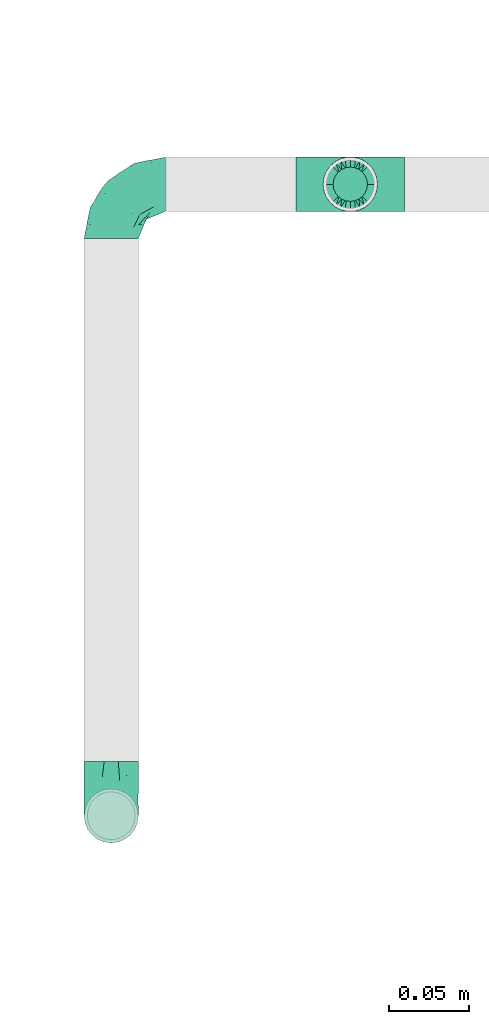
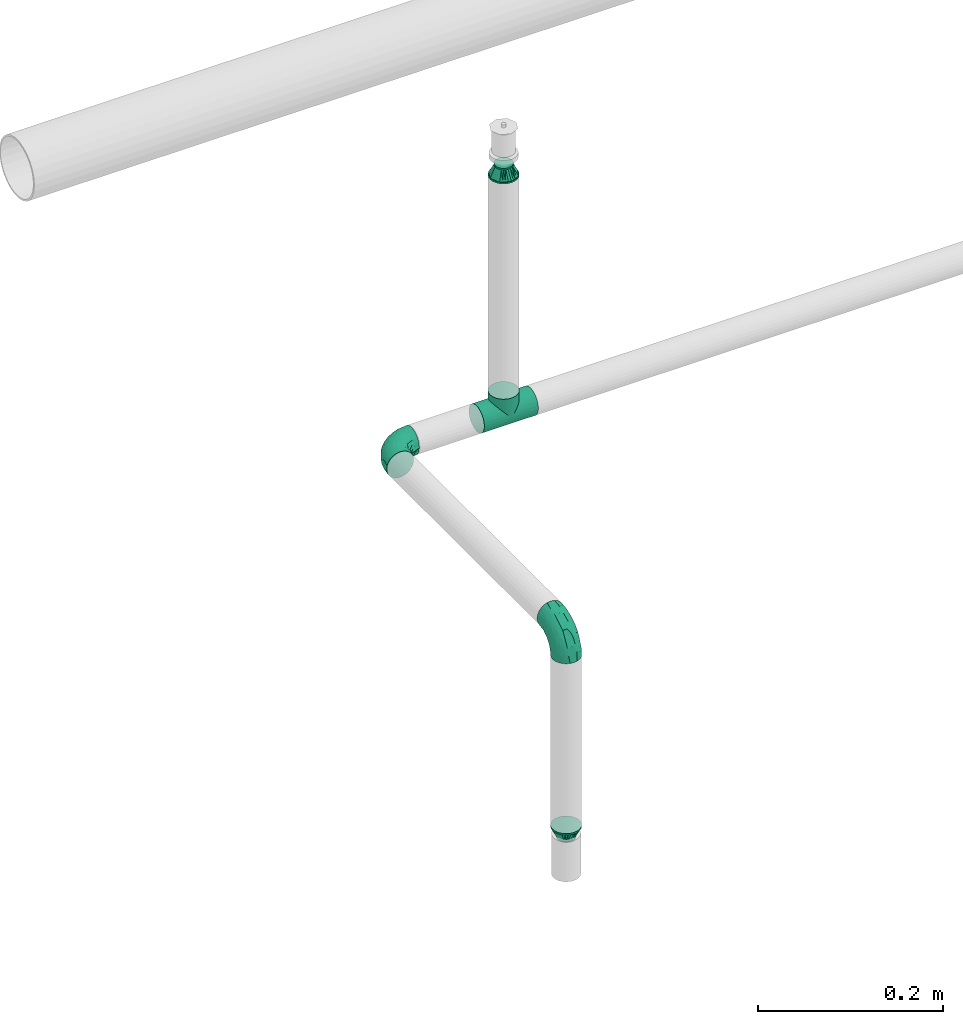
# One storey, part 104 of 157: 5 flow fittings.
"""IFC2X3 building model written with IfcOpenShell, lengths in millimetres."""

from ifc_helpers import new_model, entity, si_unit, converted_unit, derived_unit, direction, frame, origin_with_axes, place, context, subcontext, project, spatial, open_shell, surface_model, source, transform, mapped, type_object, element, save


model = new_model("IFC2X3")

# Units and contexts
model_context = context("Model", 3, precision=0.01, world=frame((0.0, 4.29681676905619e-09, 0.0)), true_north=direction((4.01073788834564e-13, 1.0)))
plan_context = context("Plan", 3, precision=0.01, world=frame((0.0, 4.29681676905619e-09, 0.0)), true_north=direction((4.01073788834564e-13, 1.0)))
body_context = subcontext(model_context, "Body", "Model", "MODEL_VIEW")
ifc_project = project(units=[converted_unit("PLANEANGLEUNIT", "DEGREE", entity("IfcPositiveLengthMeasure", 0.0174532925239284), si_unit("PLANEANGLEUNIT", "RADIAN"), dimensions=[0, 0, 0, 0, 0, 0, 0]), si_unit("AREAUNIT", "SQUARE_METRE"), si_unit("LENGTHUNIT", "METRE", prefix="MILLI"), si_unit("MASSUNIT", "GRAM", prefix="KILO"), si_unit("POWERUNIT", "WATT"), si_unit("PRESSUREUNIT", "PASCAL"), si_unit("FORCEUNIT", "NEWTON", prefix="KILO"), si_unit("ELECTRICCURRENTUNIT", "AMPERE"), si_unit("THERMODYNAMICTEMPERATUREUNIT", "DEGREE_CELSIUS"), si_unit("TIMEUNIT", "SECOND"), si_unit("VOLUMEUNIT", "CUBIC_METRE"), derived_unit("LINEARVELOCITYUNIT", [(si_unit("LENGTHUNIT", "METRE"), 1), (si_unit("TIMEUNIT", "SECOND"), -1)]), derived_unit("VOLUMETRICFLOWRATEUNIT", [(si_unit("VOLUMEUNIT", "CUBIC_METRE"), 1), (si_unit("TIMEUNIT", "SECOND"), -1)]), derived_unit("THERMALTRANSMITTANCEUNIT", [(si_unit("POWERUNIT", "WATT"), 1), (si_unit("THERMODYNAMICTEMPERATUREUNIT", "KELVIN"), -1), (si_unit("AREAUNIT", "SQUARE_METRE"), -1)])], contexts=[model_context, plan_context])

# Site, building, storey
site_placement = place(None, frame((0.0, -4.29681676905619e-09, 0.0), z_axis=(0.0, 0.0, 1.0), x_axis=(1.0, 0.0, 0.0)))
site = spatial("IfcSite", under=ifc_project, at=site_placement, CompositionType="ELEMENT")
building_placement = place(site_placement, frame((0.0, 4.29681676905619e-09, 0.0), z_axis=(0.0, 0.0, 1.0), x_axis=(1.0, 0.0, 0.0)))
building = spatial("IfcBuilding", under=site, at=building_placement, Name="mc-building", CompositionType="ELEMENT")
storey_placement = place(building_placement, frame((0.0, 0.0, 204000.0), z_axis=(0.0, 0.0, 1.0), x_axis=(1.0, 0.0, 0.0)))
storey = spatial("IfcBuildingStorey", under=building, at=storey_placement, Name="Nivå D", CompositionType="ELEMENT", Elevation=204000.0)

# Flow fittings
pipe_fitting_type_1 = type_object("IfcPipeFittingType", Name="magi_pipe_fe_tee_centric_90_NOR", PredefinedType="JUNCTION")
shared_shape_1 = source(origin_with_axes(), body_context, "Body", "SurfaceModel", [
    surface_model("IfcShellBasedSurfaceModel", [(-33.8, 4.37404, -16.32415), (-33.8, 0.0, -16.9), (-33.8, 16.32415, -4.37404), (-33.8, 8.45, -14.63583), (-33.8, 11.9501, -11.9501), (-33.8, 14.63583, -8.45), (-33.8, -16.9, 0.0), (-33.8, -11.9501, -11.9501), (-33.8, -14.63583, -8.45), (-33.8, -8.45, -14.63583), (-33.8, -4.37404, -16.32415), (-33.8, -16.32415, -4.37404), (-33.8, 14.63583, 8.45), (-33.8, 16.32415, 4.37404), (-33.8, -8.45, 14.63583), (-33.8, 8.45, 14.63583), (-33.8, 11.9501, 11.9501), (-33.8, 4.37404, 16.32415), (-33.8, 0.0, 16.9), (-33.8, -11.9501, 11.9501), (-33.8, -14.63583, 8.45), (-33.8, -16.32415, 4.37404), (-33.8, -4.37404, 16.32415), (-33.8, 16.9, 0.0), (33.8, 4.37404, -16.32415), (33.8, -16.9, 0.0), (33.8, 0.0, -16.9), (33.8, 14.63583, -8.45), (33.8, 8.45, -14.63583), (33.8, 16.32415, -4.37404), (33.8, 11.9501, -11.9501), (33.8, -16.32415, 4.37404), (33.8, -8.45, -14.63583), (33.8, -4.37404, -16.32415), (33.8, -11.9501, -11.9501), (33.8, -14.63583, -8.45), (33.8, -16.32415, -4.37404), (33.8, 16.32415, 4.37404), (33.8, 8.45, 14.63583), (33.8, 14.63583, 8.45), (33.8, 11.9501, 11.9501), (33.8, -8.45, 14.63583), (33.8, 4.37404, 16.32415), (33.8, -14.63583, 8.45), (33.8, -11.9501, 11.9501), (33.8, 0.0, 16.9), (33.8, -4.37404, 16.32415), (33.8, 16.9, 0.0), (16.28698, -16.28698, 4.51047), (16.9, -16.9, 0.0), (14.62704, -14.62704, 8.4652), (9.47213, -9.47213, 13.99602), (12.26343, -12.26343, 11.62834), (-16.9, -16.9, 0.0), (-16.28698, -16.28698, 4.51047), (-14.62704, -14.62704, 8.4652), (-12.26343, -12.26343, 11.62834), (-9.47213, -9.47213, 13.99602), (-6.42894, -6.42894, 15.62942), (6.42894, -6.42894, 15.62942), (3.24522, -3.24522, 16.58549), (0.0, 0.0, 16.9), (-3.24522, -3.24522, 16.58549), (3.24522, -3.24522, -16.58549), (0.0, 0.0, -16.9), (-3.24522, -3.24522, -16.58549), (-6.42894, -6.42894, -15.62942), (6.42894, -6.42894, -15.62942), (9.47213, -9.47213, -13.99602), (12.26343, -12.26343, -11.62834), (14.62704, -14.62704, -8.4652), (16.28698, -16.28698, -4.51047), (-9.47213, -9.47213, -13.99602), (-12.26343, -12.26343, -11.62834), (-16.28698, -16.28698, -4.51047), (-14.62704, -14.62704, -8.4652), (4.37404, -25.35, -16.32415), (-16.9, -25.35, 0.0), (0.0, -25.35, -16.9), (14.63583, -25.35, -8.45), (8.45, -25.35, -14.63583), (16.32415, -25.35, -4.37404), (11.9501, -25.35, -11.9501), (-11.9501, -25.35, -11.9501), (-8.45, -25.35, -14.63583), (-4.37404, -25.35, -16.32415), (-14.63583, -25.35, -8.45), (-16.32415, -25.35, -4.37404), (16.9, -25.35, 0.0), (8.45, -25.35, 14.63583), (16.32415, -25.35, 4.37404), (14.63583, -25.35, 8.45), (-8.45, -25.35, 14.63583), (11.9501, -25.35, 11.9501), (4.37404, -25.35, 16.32415), (-16.32415, -25.35, 4.37404), (-11.9501, -25.35, 11.9501), (-14.63583, -25.35, 8.45), (0.0, -25.35, 16.9), (-4.37404, -25.35, 16.32415)], [open_shell([[[0, 1, 2]], [[3, 0, 4]], [[0, 2, 5]], [[4, 0, 5]], [[6, 2, 1]], [[7, 8, 9]], [[1, 10, 9]], [[11, 6, 8]], [[1, 9, 8]], [[1, 8, 6]], [[6, 12, 2]], [[12, 13, 2]], [[14, 12, 6]], [[12, 14, 15]], [[16, 12, 15]], [[17, 15, 18]], [[19, 14, 20]], [[21, 20, 14]], [[22, 18, 14]], [[14, 6, 21]], [[14, 18, 15]], [[23, 2, 13]], [[24, 25, 26]], [[27, 24, 28]], [[27, 29, 24]], [[27, 28, 30]], [[31, 25, 24]], [[26, 32, 33]], [[26, 34, 32]], [[35, 25, 36]], [[35, 34, 26]], [[25, 35, 26]], [[24, 29, 31]], [[29, 37, 38]], [[38, 37, 39]], [[38, 31, 29]], [[38, 39, 40]], [[41, 38, 42]], [[43, 41, 44]], [[41, 43, 31]], [[41, 45, 46]], [[41, 31, 38]], [[42, 45, 41]], [[29, 47, 37]], [[31, 43, 48]], [[25, 31, 49]], [[49, 31, 48]], [[43, 50, 48]], [[44, 41, 51]], [[50, 43, 52]], [[51, 52, 44]], [[52, 43, 44]], [[53, 54, 21]], [[53, 21, 6]], [[21, 54, 20]], [[54, 55, 20]], [[56, 57, 19]], [[19, 20, 56]], [[19, 57, 14]], [[56, 20, 55]], [[14, 57, 58]], [[51, 41, 59]], [[60, 45, 61]], [[59, 46, 60]], [[46, 59, 41]], [[60, 46, 45]], [[61, 45, 42]], [[39, 37, 13]], [[16, 38, 40]], [[12, 40, 39]], [[42, 38, 15]], [[23, 37, 47]], [[62, 61, 18]], [[62, 22, 58]], [[22, 62, 18]], [[58, 22, 14]], [[61, 17, 18]], [[42, 17, 61]], [[15, 17, 42]], [[15, 38, 16]], [[12, 16, 40]], [[13, 12, 39]], [[37, 23, 13]], [[5, 27, 30]], [[23, 47, 29]], [[30, 28, 3]], [[27, 2, 29]], [[26, 33, 63]], [[26, 64, 24]], [[64, 26, 63]], [[28, 24, 0]], [[64, 0, 24]], [[4, 30, 3]], [[2, 27, 5]], [[5, 30, 4]], [[2, 23, 29]], [[65, 66, 10]], [[1, 0, 64]], [[1, 65, 10]], [[66, 9, 10]], [[0, 3, 28]], [[1, 64, 65]], [[63, 33, 67]], [[32, 34, 68]], [[69, 68, 34]], [[35, 70, 69]], [[69, 34, 35]], [[32, 68, 67]], [[36, 25, 49]], [[36, 71, 35]], [[71, 36, 49]], [[35, 71, 70]], [[72, 9, 66]], [[72, 7, 9]], [[7, 72, 73]], [[7, 73, 8]], [[74, 53, 11]], [[75, 74, 8]], [[74, 11, 8]], [[11, 53, 6]], [[75, 8, 73]], [[32, 67, 33]], [[76, 77, 78]], [[79, 76, 80]], [[79, 81, 76]], [[79, 80, 82]], [[77, 76, 81]], [[78, 83, 84]], [[84, 85, 78]], [[86, 77, 87]], [[83, 78, 86]], [[77, 86, 78]], [[81, 88, 77]], [[89, 88, 90]], [[89, 90, 91]], [[92, 77, 89]], [[89, 91, 93]], [[92, 89, 94]], [[95, 96, 97]], [[96, 95, 92]], [[92, 98, 99]], [[95, 77, 92]], [[94, 98, 92]], [[89, 77, 88]], [[77, 95, 53]], [[54, 53, 95]], [[97, 96, 56]], [[96, 92, 57]], [[95, 97, 54]], [[58, 92, 99]], [[55, 54, 97]], [[56, 55, 97]], [[58, 57, 92]], [[98, 61, 62]], [[58, 99, 62]], [[56, 96, 57]], [[62, 99, 98]], [[94, 60, 98]], [[89, 59, 94]], [[91, 90, 48]], [[52, 93, 91]], [[93, 51, 89]], [[49, 90, 88]], [[59, 60, 94]], [[51, 59, 89]], [[49, 48, 90]], [[50, 52, 91]], [[48, 50, 91]], [[51, 93, 52]], [[98, 60, 61]], [[88, 81, 49]], [[71, 49, 81]], [[79, 82, 69]], [[82, 80, 68]], [[81, 79, 71]], [[67, 80, 76]], [[70, 71, 79]], [[69, 70, 79]], [[67, 68, 80]], [[78, 64, 63]], [[67, 76, 63]], [[69, 82, 68]], [[63, 76, 78]], [[85, 65, 78]], [[84, 66, 85]], [[86, 87, 74]], [[86, 73, 83]], [[72, 84, 83]], [[53, 87, 77]], [[66, 65, 85]], [[72, 66, 84]], [[53, 74, 87]], [[75, 73, 86]], [[74, 75, 86]], [[72, 83, 73]], [[78, 65, 64]]])]),
])
flow_fitting_placement = place(storey_placement, frame((530040.35, 413380.00018, 2690.0), z_axis=(0.0, -1.0, 0.0), x_axis=(-1.0, 0.0, 0.0)))
element("IfcFlowFitting", 1, at=flow_fitting_placement, inside=storey, type_object=pipe_fitting_type_1, Name="magi_pipe_fe_tee_centric_90_NOR", context=body_context, shape_type="MappedRepresentation", body=[
    mapped(shared_shape_1, transform((0.0, 0.0, 0.0), scale=1.0)),
])
pipe_fitting_type_2 = type_object("IfcPipeFittingType", Name="magi_pipe_fe_elbow_short_001", PredefinedType="BEND")
shared_shape_2 = source(origin_with_axes(), body_context, "Body", "SurfaceModel", [
    surface_model("IfcShellBasedSurfaceModel", [(-33.8, 8.45, -14.63583), (-33.8, 4.37404, -16.32415), (-33.8, 11.9501, -11.9501), (-33.8, -11.9501, -11.9501), (-33.8, -14.63583, -8.45), (-33.8, -8.45, -14.63583), (-33.8, 0.0, -16.9), (-33.8, -4.37404, -16.32415), (-33.8, -4.37404, 16.32415), (-33.8, 0.0, 16.9), (-33.8, -8.45, 14.63583), (-33.8, 16.32415, -4.37404), (-33.8, 14.63583, -8.45), (-33.8, -16.32415, -4.37404), (-33.8, -16.9, 0.0), (-33.8, -16.32415, 4.37404), (-33.8, 11.9501, 11.9501), (-33.8, 14.63583, 8.45), (-33.8, 16.32415, 4.37404), (-33.8, 4.37404, 16.32415), (-33.8, 8.45, 14.63583), (-33.8, -14.63583, 8.45), (-33.8, -11.9501, 11.9501), (-33.8, 16.9, 0.0), (-11.9501, 33.8, -11.9501), (0.0, 33.8, -16.9), (-4.37404, 33.8, -16.32415), (-8.45, 33.8, -14.63583), (-14.63583, 33.8, -8.45), (-16.32415, 33.8, -4.37404), (14.63583, 33.8, -8.45), (8.45, 33.8, 14.63583), (16.32415, 33.8, -4.37404), (8.45, 33.8, -14.63583), (11.9501, 33.8, -11.9501), (4.37404, 33.8, -16.32415), (16.32415, 33.8, 4.37404), (16.9, 33.8, 0.0), (-11.9501, 33.8, 11.9501), (-16.32415, 33.8, 4.37404), (-14.63583, 33.8, 8.45), (-8.45, 33.8, 14.63583), (-4.37404, 33.8, 16.32415), (11.9501, 33.8, 11.9501), (14.63583, 33.8, 8.45), (0.0, 33.8, 16.9), (4.37404, 33.8, 16.32415), (-16.9, 33.8, 0.0), (-24.79389, -13.12945, 9.48721), (-22.19287, -9.75018, 12.59315), (-24.09897, -14.97035, 0.0), (-14.93934, -10.76256, 8.5297), (-22.46095, -14.75051, 5.27077), (14.75051, 22.46094, 5.27077), (11.9251, 13.23888, 4.33236), (13.04069, 14.39795, 0.0), (7.71387, 13.68847, 11.55891), (9.75018, 22.19287, 12.59315), (4.10169, 13.0571, 14.04018), (-24.84007, -6.39063, 15.2048), (-25.81779, -2.23879, 16.61097), (-23.66549, 2.59054, 16.87119), (-26.50418, 14.06512, 11.08152), (-24.21253, 17.66365, 7.72657), (-29.58514, 15.86957, 7.00283), (-6.17382, -7.5455, 0.0), (-13.23888, -11.9251, 4.33236), (-14.39795, -13.04069, 0.0), (-17.81434, 18.87373, 11.97104), (-6.30846, 29.15138, 15.82987), (-2.31622, 25.28002, 16.85849), (-29.23923, 10.23435, 13.77053), (-1.45439, -2.85688, 7.61475), (-0.28326, 0.34872, 10.09509), (-5.74484, -4.04709, 10.4122), (-4.41137, 11.31918, 16.59407), (-8.39727, 3.10034, 15.7812), (-1.72649, 9.1306, 15.53089), (-17.39909, 24.75344, 7.64977), (-26.19233, 20.0512, 0.0), (-28.14518, 17.29657, 4.25857), (-26.05147, 6.6281, 15.96447), (-5.87354, 16.61944, 16.86968), (-12.51807, 12.51807, 16.48937), (-10.06312, 7.38516, 16.81295), (-3.01882, 3.01882, 13.81718), (-13.0571, -4.10169, 14.04018), (-16.82553, -0.15166, 16.38038), (10.76256, 14.93934, 8.5297), (13.12945, 24.79389, 9.48721), (6.39063, 24.84007, 15.2048), (2.23879, 25.81779, 16.61097), (-13.68847, -7.71387, 11.55891), (14.97035, 24.09897, 0.0), (-7.30894, 22.89991, 16.09489), (-10.67958, 26.17414, 14.008), (-12.78295, 18.26924, 15.06066), (-13.88562, 22.45231, 12.93244), (-18.04944, 15.16501, 14.04434), (-23.11658, 20.08178, 4.02986), (-21.84989, 21.84989, 0.0), (-18.55817, 25.48277, 3.93065), (-13.95142, 26.94732, 11.03289), (-18.57098, 7.23906, 16.59756), (-16.58335, 4.14122, 16.89279), (-17.96666, 11.46709, 15.63151), (-9.84453, 17.54304, 16.18938), (0.15166, 16.82553, 16.38038), (-23.27207, 11.47201, 14.23154), (3.84842, 5.86994, 10.70473), (-8.0212, -7.54413, 7.93275), (1.00345, -2.19508, 4.57414), (5.13203, 3.01004, 5.90201), (5.24161, 1.7543, 2.53265), (8.70457, 7.04947, 3.99182), (-20.0512, 26.19233, 0.0), (8.4852, 8.76699, 7.09296), (-4.55488, -6.72064, 4.90681), (2.05031, -2.05031, 0.0), (7.5455, 6.17382, 0.0), (-26.75399, 2.1369, -16.845), (-14.61995, 24.73803, -11.27736), (-28.45274, -13.45335, -9.81895), (-26.00469, 6.63555, -15.96645), (-23.06726, 20.04573, -4.26202), (-13.80647, -4.26506, -14.17873), (-14.67501, -0.21081, -16.07388), (-6.7902, -0.2828, -13.8478), (-24.53586, 11.08096, -14.13417), (-26.72048, 14.00837, -11.05776), (10.0967, 24.44989, -12.75976), (5.83237, 21.40218, -15.03047), (6.66249, 28.54238, -15.38093), (-20.38182, 15.48705, -12.74596), (12.53268, 21.23441, -9.15363), (12.54494, 15.67504, -5.54878), (9.7522, 12.89279, -8.66343), (-15.65186, 19.64213, -13.01327), (-12.03528, 20.66498, -14.67665), (-15.61907, 15.61906, -14.83879), (-25.56551, -15.26206, 0.0), (-24.65452, -15.12934, -5.50955), (13.45335, 28.45274, -9.81895), (15.12934, 24.65452, -5.50955), (-7.35442, -8.31014, -5.65563), (-15.67504, -12.54494, -5.54878), (-24.44989, -10.0967, -12.75976), (0.16522, 0.41303, -9.71728), (-5.70658, -5.33066, -8.89288), (-5.13869, -2.37198, -11.53565), (-21.23441, -12.53268, -9.15363), (0.71146, 7.93863, -14.09382), (0.21081, 14.67501, -16.07388), (3.49291, 14.42772, -14.76381), (-24.89911, -2.13088, -16.591), (-28.54238, -6.66249, -15.38093), (-18.44386, -7.71663, -13.26957), (2.13088, 24.89911, -16.591), (-28.64342, 17.44413, -2.89318), (1.70017, -1.28722, -5.09504), (-16.57067, 26.81947, -7.36596), (-17.69055, 27.4263, -3.76405), (-12.89279, -9.7522, -8.66343), (-5.96611, 5.96611, -15.95814), (-20.53709, 20.09345, -8.28985), (-2.1369, 26.75399, -16.845), (-6.89872, 24.58781, -16.02578), (-10.60739, 26.53157, -13.98044), (-21.40218, -5.83237, -15.03047), (2.93192, 5.89627, -11.55917), (6.89393, 12.61842, -11.82233), (5.58056, 5.95325, -8.79455), (-3.99512, 18.61798, -16.89635), (8.31014, 7.35442, -5.65563), (-9.1383, 9.86148, -16.89041), (-9.99983, 16.02119, -16.39699), (-16.68576, 9.78031, -16.34199), (-27.01915, 16.61158, -7.12979), (15.26206, 25.56551, 0.0), (-18.61798, 3.99512, -16.89635), (-19.37495, 27.82495, 0.0), (-12.61842, -6.89393, -11.82233), (-18.84705, 19.14018, -10.96545)], [open_shell([[[0, 1, 2]], [[3, 4, 5]], [[6, 7, 5]], [[8, 9, 10]], [[1, 6, 2]], [[11, 12, 2]], [[4, 2, 6]], [[2, 13, 10]], [[5, 4, 6]], [[2, 4, 13]], [[14, 15, 13]], [[11, 2, 16]], [[11, 17, 18]], [[11, 16, 17]], [[19, 20, 16]], [[16, 2, 10]], [[19, 16, 10]], [[21, 22, 15]], [[22, 13, 15]], [[22, 10, 13]], [[10, 9, 19]], [[11, 18, 23]], [[24, 25, 26]], [[24, 26, 27]], [[24, 28, 29]], [[25, 24, 30]], [[31, 32, 24]], [[33, 30, 34]], [[33, 35, 25]], [[25, 30, 33]], [[32, 30, 24]], [[32, 36, 37]], [[38, 24, 29]], [[39, 40, 29]], [[40, 38, 29]], [[38, 41, 42]], [[38, 31, 24]], [[31, 38, 42]], [[36, 43, 44]], [[36, 32, 43]], [[31, 45, 46]], [[32, 31, 43]], [[42, 45, 31]], [[39, 29, 47]], [[22, 48, 49]], [[15, 14, 50]], [[51, 48, 52]], [[53, 54, 55]], [[48, 22, 21]], [[15, 52, 21]], [[56, 57, 58]], [[49, 10, 22]], [[49, 59, 10]], [[9, 60, 61]], [[62, 63, 64]], [[65, 66, 67]], [[57, 43, 31]], [[62, 68, 63]], [[42, 69, 70]], [[20, 71, 16]], [[8, 60, 9]], [[72, 73, 74]], [[75, 76, 77]], [[16, 62, 17]], [[40, 39, 78]], [[79, 23, 80]], [[64, 18, 17]], [[9, 61, 19]], [[19, 81, 20]], [[82, 83, 84]], [[74, 85, 86]], [[59, 86, 87]], [[88, 89, 57]], [[90, 31, 46]], [[44, 53, 36]], [[46, 45, 91]], [[54, 53, 88]], [[44, 89, 53]], [[92, 86, 49]], [[89, 44, 43]], [[10, 59, 8]], [[53, 55, 93]], [[93, 36, 53]], [[66, 52, 67]], [[94, 82, 70]], [[95, 96, 94]], [[97, 98, 96]], [[79, 99, 100]], [[41, 38, 95]], [[101, 100, 99]], [[68, 78, 63]], [[42, 41, 69]], [[23, 18, 80]], [[95, 94, 69]], [[78, 101, 99]], [[38, 102, 95]], [[70, 45, 42]], [[97, 95, 102]], [[15, 50, 52]], [[90, 57, 31]], [[57, 90, 58]], [[81, 19, 61]], [[103, 104, 84]], [[105, 81, 103]], [[38, 40, 102]], [[106, 96, 83]], [[94, 106, 82]], [[91, 70, 107]], [[71, 62, 16]], [[62, 108, 98]], [[86, 59, 49]], [[67, 52, 50]], [[60, 59, 87]], [[92, 49, 51]], [[86, 85, 76]], [[91, 90, 46]], [[37, 36, 93]], [[107, 77, 58]], [[107, 58, 90]], [[58, 85, 109]], [[110, 74, 92]], [[72, 74, 110]], [[66, 51, 52]], [[72, 111, 112]], [[113, 114, 112]], [[56, 88, 57]], [[52, 48, 21]], [[49, 48, 51]], [[57, 89, 43]], [[53, 89, 88]], [[103, 81, 61]], [[71, 81, 108]], [[18, 64, 80]], [[63, 78, 99]], [[47, 115, 101]], [[101, 115, 100]], [[40, 78, 102]], [[68, 102, 78]], [[97, 96, 95]], [[105, 98, 108]], [[103, 84, 83]], [[107, 70, 82]], [[76, 84, 87]], [[82, 84, 75]], [[70, 91, 45]], [[90, 91, 107]], [[59, 60, 8]], [[61, 60, 87]], [[73, 85, 74]], [[109, 112, 116]], [[103, 61, 104]], [[105, 103, 83]], [[96, 105, 83]], [[81, 105, 108]], [[96, 98, 105]], [[62, 98, 68]], [[61, 87, 104]], [[87, 84, 104]], [[86, 76, 87]], [[77, 76, 85]], [[58, 77, 85]], [[75, 77, 107]], [[82, 75, 107]], [[76, 75, 84]], [[81, 71, 20]], [[62, 71, 108]], [[95, 69, 41]], [[70, 69, 94]], [[62, 64, 17]], [[80, 63, 99]], [[63, 80, 64]], [[80, 99, 79]], [[66, 65, 117]], [[110, 66, 117]], [[112, 114, 116]], [[118, 117, 65]], [[110, 92, 51]], [[112, 111, 113]], [[119, 55, 54]], [[74, 86, 92]], [[58, 109, 56]], [[116, 56, 109]], [[66, 110, 51]], [[72, 110, 117]], [[111, 72, 117]], [[73, 112, 109]], [[117, 118, 111]], [[113, 111, 118]], [[118, 119, 113]], [[114, 119, 54]], [[119, 114, 113]], [[116, 54, 88]], [[54, 116, 114]], [[116, 88, 56]], [[112, 73, 72]], [[85, 73, 109]], [[78, 39, 101]], [[47, 101, 39]], [[102, 68, 97]], [[97, 68, 98]], [[82, 106, 83]], [[94, 96, 106]], [[1, 120, 6]], [[28, 24, 121]], [[3, 122, 4]], [[0, 123, 1]], [[100, 124, 79]], [[125, 126, 127]], [[128, 2, 129]], [[130, 131, 132]], [[128, 129, 133]], [[134, 135, 136]], [[137, 138, 139]], [[128, 0, 2]], [[67, 140, 141]], [[134, 142, 143]], [[141, 13, 4]], [[144, 65, 145]], [[146, 3, 5]], [[147, 148, 149]], [[145, 141, 150]], [[151, 152, 153]], [[154, 7, 6]], [[5, 155, 146]], [[150, 146, 156]], [[155, 5, 7]], [[143, 135, 134]], [[35, 157, 25]], [[23, 79, 158]], [[148, 159, 144]], [[160, 161, 29]], [[145, 162, 144]], [[163, 152, 151]], [[29, 28, 160]], [[121, 164, 160]], [[33, 34, 130]], [[25, 165, 26]], [[26, 165, 166]], [[142, 34, 30]], [[24, 27, 167]], [[124, 161, 164]], [[157, 35, 132]], [[155, 154, 168]], [[123, 0, 128]], [[169, 170, 171]], [[172, 157, 152]], [[26, 166, 27]], [[132, 35, 33]], [[142, 130, 34]], [[168, 154, 126]], [[136, 135, 173]], [[133, 137, 139]], [[2, 12, 129]], [[170, 131, 130]], [[30, 32, 143]], [[172, 174, 175]], [[176, 123, 128]], [[158, 177, 11]], [[135, 55, 119]], [[167, 27, 166]], [[175, 166, 172]], [[137, 167, 138]], [[122, 141, 4]], [[140, 14, 13]], [[32, 37, 178]], [[170, 130, 134]], [[152, 157, 131]], [[165, 157, 172]], [[153, 170, 151]], [[152, 163, 174]], [[168, 125, 156]], [[122, 146, 150]], [[120, 154, 6]], [[179, 174, 126]], [[179, 126, 154]], [[126, 163, 127]], [[162, 145, 150]], [[140, 13, 141]], [[32, 178, 143]], [[55, 143, 178]], [[177, 129, 12]], [[128, 133, 139]], [[176, 128, 139]], [[120, 123, 179]], [[121, 160, 28]], [[161, 100, 180]], [[166, 175, 138]], [[121, 24, 167]], [[161, 47, 29]], [[79, 124, 158]], [[124, 164, 177]], [[161, 124, 100]], [[136, 171, 170]], [[127, 163, 151]], [[147, 171, 159]], [[148, 144, 162]], [[127, 151, 169]], [[127, 181, 125]], [[129, 177, 164]], [[12, 11, 177]], [[159, 65, 144]], [[67, 141, 145]], [[143, 55, 135]], [[135, 119, 173]], [[123, 120, 1]], [[154, 120, 179]], [[157, 165, 25]], [[166, 165, 172]], [[172, 152, 174]], [[176, 139, 175]], [[126, 174, 163]], [[176, 174, 179]], [[174, 176, 175]], [[123, 176, 179]], [[150, 181, 162]], [[127, 149, 181]], [[181, 148, 162]], [[159, 148, 147]], [[171, 136, 173]], [[170, 134, 136]], [[159, 171, 173]], [[171, 147, 169]], [[169, 147, 149]], [[151, 170, 169]], [[164, 182, 129]], [[182, 121, 137]], [[181, 149, 148]], [[169, 149, 127]], [[182, 137, 133]], [[167, 137, 121]], [[166, 138, 167]], [[175, 139, 138]], [[129, 182, 133]], [[121, 182, 164]], [[161, 160, 164]], [[47, 161, 180]], [[177, 158, 124]], [[23, 158, 11]], [[130, 132, 33]], [[157, 132, 131]], [[143, 142, 30]], [[130, 142, 134]], [[154, 155, 7]], [[146, 155, 168]], [[146, 122, 3]], [[141, 122, 150]], [[152, 131, 153]], [[159, 119, 118]], [[67, 145, 65]], [[170, 153, 131]], [[119, 159, 173]], [[159, 118, 65]], [[156, 125, 181]], [[126, 125, 168]], [[150, 156, 181]], [[168, 156, 146]]])]),
])
for number, where, z_axis, x_axis, name in (
    (2, (529891.33339, 413380.00018, 2690.0), (0.0, 0.0, 1.0), (-1.0, 0.0, 0.0), "magi_pipe_fe_elbow_short_001"),
    (3, (529891.33339, 412986.41959, 2690.0), (1.0, 0.0, 0.0), (0.0, -1.0, 0.0), "magi_pipe_fe_elbow_short_001"),
):
    element("IfcFlowFitting", number, at=place(storey_placement, frame(where, z_axis=z_axis, x_axis=x_axis)), inside=storey, type_object=pipe_fitting_type_2, Name=name, context=body_context, shape_type="MappedRepresentation", body=[
        mapped(shared_shape_2, transform((0.0, 0.0, 0.0), scale=1.0)),
    ])
pipe_fitting_type_3 = type_object("IfcPipeFittingType", Name="magi_pipe_fe_reducer_centric_short_NOR", PredefinedType="TRANSITION")
shared_shape_3 = source(origin_with_axes(), body_context, "Body", "SurfaceModel", [
    surface_model("IfcShellBasedSurfaceModel", [(-2.0, -7.56604, -7.56604), (-2.0, -10.33541, -2.76936), (-2.0, -5.35, -9.26647), (-2.0, 5.35, -9.26647), (-2.0, 10.33541, -2.76936), (-2.0, 7.56604, -7.56604), (12.4, 11.9501, 11.9501), (12.4, 0.0, 16.9), (12.4, 11.9501, -11.9501), (12.4, 16.9, 0.0), (0.0, -10.7, 0.0), (0.0, -5.35, 9.26647), (0.0, -5.35, -9.26647), (0.0, 10.7, 0.0), (12.4, 15.66253, -2.98753), (12.4, 8.96258, -13.18758), (0.0, 6.6875, -6.94985), (12.4, -15.66253, -2.98753), (12.4, -16.9, 0.0), (12.4, 5.97505, -14.42505), (0.0, 5.35, -9.26647), (12.4, 14.42505, -5.97505), (0.0, 8.025, -4.63324), (0.0, 9.3625, -2.31662), (0.0, -9.3625, -2.31662), (0.0, -8.025, -4.63324), (12.4, -14.42505, -5.97505), (12.4, 13.18758, -8.96258), (12.4, -13.18758, -8.96258), (12.4, -11.9501, -11.9501), (0.0, -6.6875, -6.94985), (12.4, -8.96258, -13.18758), (12.4, -5.97505, -14.42505), (12.4, -15.66253, 2.98753), (12.4, -8.96258, 13.18758), (0.0, -6.6875, 6.94985), (12.4, -11.9501, 11.9501), (12.4, 15.66253, 2.98753), (12.4, -5.97505, 14.42505), (12.4, -14.42505, 5.97505), (0.0, -8.025, 4.63324), (0.0, -9.3625, 2.31662), (0.0, 9.3625, 2.31662), (0.0, 8.025, 4.63324), (12.4, 14.42505, 5.97505), (12.4, -13.18758, 8.96258), (12.4, 13.18758, 8.96258), (0.0, 6.6875, 6.94985), (12.4, 8.96258, 13.18758), (0.0, 5.35, 9.26647), (12.4, 5.97505, 14.42505), (14.4, 4.37404, -16.32415), (14.4, 8.45, -14.63583), (14.4, 11.9501, -11.9501), (14.4, -8.45, -14.63583), (14.4, 16.32415, -4.37404), (14.4, 16.32415, 4.37404), (14.4, 14.63583, -8.45), (14.4, 0.0, -16.9), (14.4, -4.37404, -16.32415), (14.4, -11.9501, -11.9501), (14.4, -16.32415, -4.37404), (14.4, -14.63583, -8.45), (14.4, -16.32415, 4.37404), (14.4, 16.9, 0.0), (14.4, 14.63583, 8.45), (14.4, 11.9501, 11.9501), (14.4, 4.37404, 16.32415), (14.4, 8.45, 14.63583), (14.4, 0.0, 16.9), (14.4, -14.63583, 8.45), (14.4, -16.9, 0.0), (14.4, -8.45, 14.63583), (14.4, -11.9501, 11.9501), (14.4, -4.37404, 16.32415), (12.4, 4.37404, 16.32415), (12.4, -14.63583, 8.45), (12.4, 16.32415, 4.37404), (12.4, 8.45, 14.63583), (12.4, 14.63583, 8.45), (12.4, -8.45, 14.63583), (12.4, -4.37404, 16.32415), (12.4, -16.32415, 4.37404), (12.4, -16.32415, -4.37404), (12.4, -8.45, -14.63583), (12.4, 16.32415, -4.37404), (12.4, 14.63583, -8.45), (12.4, 8.45, -14.63583), (12.4, 4.37404, -16.32415), (12.4, 0.0, -16.9), (12.4, -14.63583, -8.45), (12.4, -4.37404, -16.32415), (-2.0, 2.76936, 10.33541), (-2.0, 0.0, 10.7), (-2.0, 5.35, 9.26647), (-2.0, 7.56604, 7.56604), (-2.0, 9.26647, 5.35), (-2.0, 10.33541, 2.76936), (-2.0, -10.33541, 2.76936), (-2.0, -2.76936, 10.33541), (-2.0, -7.56604, 7.56604), (-2.0, -5.35, 9.26647), (-2.0, -9.26647, 5.35), (-2.0, -10.7, 0.0), (-2.0, 9.26647, -5.35), (-2.0, 2.76936, -10.33541), (-2.0, -9.26647, -5.35), (-2.0, 0.0, -10.7), (-2.0, -2.76936, -10.33541), (-2.0, 10.7, 0.0), (0.0, 0.0, -10.7), (0.0, 2.76936, -10.33541), (0.0, 10.33541, -2.76936), (0.0, 7.56604, -7.56604), (0.0, -10.33541, -2.76936), (0.0, 9.26647, -5.35), (0.0, 0.0, 10.7), (0.0, -2.76936, -10.33541), (0.0, -7.56604, -7.56604), (0.0, -9.26647, -5.35), (0.0, 10.33541, 2.76936), (0.0, 9.26647, 5.35), (0.0, 7.56604, 7.56604), (0.0, 2.76936, 10.33541), (0.0, -7.56604, 7.56604), (0.0, -10.33541, 2.76936), (0.0, -9.26647, 5.35), (0.0, -2.76936, 10.33541), (0.0, 2.675, -9.26647), (0.0, -2.675, -9.26647), (12.4, 2.98753, -15.66253), (0.0, 0.0, -9.26647), (12.4, -2.98753, -15.66253), (0.0, -2.675, 9.26647), (0.0, 2.675, 9.26647), (12.4, -2.98753, 15.66253), (0.0, 0.0, 9.26647), (12.4, 2.98753, 15.66253)], [open_shell([[[0, 1, 2]], [[3, 4, 5]], [[6, 7, 8]], [[8, 9, 6]], [[10, 11, 12]], [[13, 9, 14]], [[15, 16, 8]], [[17, 18, 10]], [[15, 19, 20]], [[21, 22, 23]], [[24, 25, 26]], [[22, 21, 27]], [[28, 26, 25]], [[29, 30, 31]], [[12, 32, 31]], [[10, 18, 33]], [[34, 35, 36]], [[37, 9, 13]], [[34, 38, 11]], [[39, 40, 41]], [[42, 43, 44]], [[40, 39, 45]], [[46, 44, 43]], [[6, 47, 48]], [[49, 50, 48]], [[51, 52, 53]], [[54, 51, 53]], [[53, 55, 56]], [[55, 53, 57]], [[53, 56, 54]], [[58, 54, 59]], [[58, 51, 54]], [[60, 61, 62]], [[61, 60, 54]], [[54, 63, 61]], [[56, 55, 64]], [[56, 65, 66]], [[56, 66, 67]], [[67, 63, 54]], [[67, 66, 68]], [[63, 67, 69]], [[69, 70, 63]], [[71, 61, 63]], [[70, 72, 73]], [[70, 69, 72]], [[72, 69, 74]], [[54, 56, 67]], [[75, 76, 7]], [[77, 75, 78]], [[6, 79, 77]], [[6, 77, 78]], [[76, 75, 77]], [[80, 76, 36]], [[80, 81, 7]], [[7, 76, 80]], [[82, 76, 77]], [[82, 83, 18]], [[82, 77, 84]], [[77, 85, 8]], [[8, 85, 86]], [[8, 87, 88]], [[84, 77, 8]], [[88, 89, 8]], [[83, 29, 90]], [[29, 83, 84]], [[84, 89, 91]], [[83, 82, 84]], [[8, 89, 84]], [[85, 77, 9]], [[83, 61, 18]], [[90, 62, 83]], [[54, 29, 84]], [[90, 29, 60]], [[59, 84, 91]], [[83, 62, 61]], [[61, 71, 18]], [[59, 54, 84]], [[60, 29, 54]], [[60, 62, 90]], [[58, 59, 91]], [[91, 89, 58]], [[88, 51, 89]], [[87, 52, 88]], [[57, 8, 86]], [[87, 8, 53]], [[55, 86, 85]], [[87, 53, 52]], [[52, 51, 88]], [[64, 55, 85]], [[57, 86, 55]], [[57, 53, 8]], [[9, 64, 85]], [[89, 51, 58]], [[77, 56, 9]], [[79, 65, 77]], [[68, 6, 78]], [[79, 6, 66]], [[67, 78, 75]], [[77, 65, 56]], [[56, 64, 9]], [[67, 68, 78]], [[66, 6, 68]], [[66, 65, 79]], [[69, 67, 75]], [[75, 7, 69]], [[81, 74, 7]], [[80, 72, 81]], [[70, 36, 76]], [[80, 36, 73]], [[63, 76, 82]], [[80, 73, 72]], [[72, 74, 81]], [[71, 63, 82]], [[70, 76, 63]], [[70, 73, 36]], [[18, 71, 82]], [[7, 74, 69]], [[92, 1, 93]], [[94, 1, 92]], [[95, 96, 97]], [[95, 97, 94]], [[98, 93, 1]], [[99, 100, 101]], [[99, 93, 100]], [[100, 98, 102]], [[93, 98, 100]], [[98, 1, 103]], [[94, 97, 1]], [[1, 97, 4]], [[5, 4, 104]], [[4, 3, 1]], [[105, 1, 3]], [[1, 0, 106]], [[2, 107, 108]], [[2, 1, 105]], [[105, 107, 2]], [[4, 97, 109]], [[20, 110, 111]], [[112, 20, 113]], [[114, 20, 112]], [[112, 113, 115]], [[116, 114, 112]], [[110, 12, 117]], [[110, 20, 12]], [[118, 114, 119]], [[114, 118, 12]], [[20, 114, 12]], [[112, 13, 120]], [[120, 121, 122]], [[120, 122, 123]], [[116, 112, 123]], [[123, 122, 49]], [[116, 124, 114]], [[125, 124, 126]], [[10, 114, 125]], [[124, 127, 11]], [[125, 114, 124]], [[127, 124, 116]], [[123, 112, 120]], [[1, 114, 103]], [[106, 119, 1]], [[12, 0, 2]], [[106, 0, 118]], [[117, 2, 108]], [[1, 119, 114]], [[114, 10, 103]], [[117, 12, 2]], [[118, 0, 12]], [[118, 119, 106]], [[110, 117, 108]], [[108, 107, 110]], [[105, 111, 107]], [[3, 20, 105]], [[115, 5, 104]], [[3, 5, 113]], [[112, 104, 4]], [[3, 113, 20]], [[20, 111, 105]], [[13, 112, 4]], [[115, 104, 112]], [[115, 113, 5]], [[109, 13, 4]], [[107, 111, 110]], [[97, 120, 109]], [[96, 121, 97]], [[49, 95, 94]], [[96, 95, 122]], [[123, 94, 92]], [[97, 121, 120]], [[120, 13, 109]], [[123, 49, 94]], [[122, 95, 49]], [[122, 121, 96]], [[116, 123, 92]], [[92, 93, 116]], [[99, 127, 93]], [[101, 11, 99]], [[126, 100, 102]], [[101, 100, 124]], [[125, 102, 98]], [[101, 124, 11]], [[11, 127, 99]], [[10, 125, 98]], [[126, 102, 125]], [[126, 124, 100]], [[103, 10, 98]], [[93, 127, 116]], [[18, 7, 36]], [[18, 29, 8]], [[89, 8, 29]], [[18, 8, 7]], [[13, 11, 49]], [[13, 20, 12]], [[13, 12, 11]], [[24, 26, 17]], [[10, 24, 17]], [[16, 15, 20]], [[30, 12, 31]], [[23, 14, 21]], [[19, 128, 20]], [[27, 8, 16]], [[32, 12, 129]], [[30, 28, 25]], [[130, 131, 128]], [[129, 132, 32]], [[16, 22, 27]], [[13, 14, 23]], [[128, 19, 130]], [[130, 89, 131]], [[131, 132, 129]], [[89, 132, 131]], [[28, 30, 29]], [[42, 44, 37]], [[13, 42, 37]], [[35, 34, 11]], [[47, 49, 48]], [[41, 33, 39]], [[38, 133, 11]], [[45, 36, 35]], [[50, 49, 134]], [[47, 46, 43]], [[135, 136, 133]], [[134, 137, 50]], [[35, 40, 45]], [[10, 33, 41]], [[133, 38, 135]], [[135, 7, 136]], [[136, 137, 134]], [[7, 137, 136]], [[46, 47, 6]]])]),
])
for number, where, z_axis, x_axis, name in (
    (4, (530040.35, 413380.00018, 3014.54800000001), (0.0, -1.0, 0.0), (0.0, 0.0, -1.0), "magi_pipe_fe_reducer_centric_short_NOR"),
    (5, (529891.33339, 412986.41959, 2416.95199999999), (0.0, 1.0, 0.0), (0.0, 0.0, 1.0), "magi_pipe_fe_reducer_centric_short_NOR"),
):
    element("IfcFlowFitting", number, at=place(storey_placement, frame(where, z_axis=z_axis, x_axis=x_axis)), inside=storey, type_object=pipe_fitting_type_3, Name=name, context=body_context, shape_type="MappedRepresentation", body=[
        mapped(shared_shape_3, transform((0.0, 0.0, 0.0), scale=1.0)),
    ])

save(model, "model.ifc")
